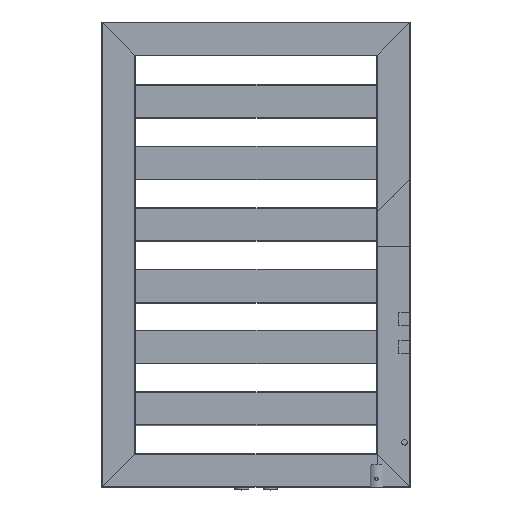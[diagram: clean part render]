
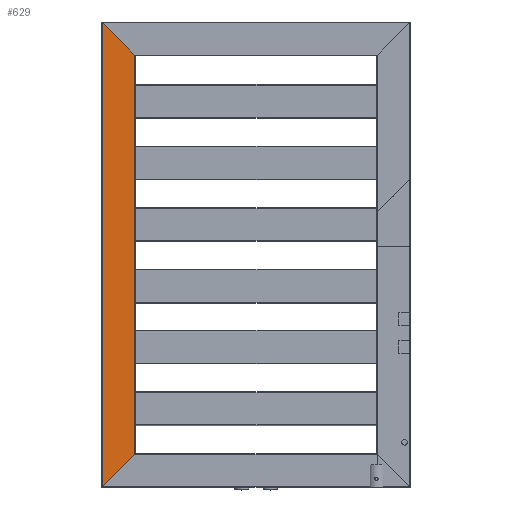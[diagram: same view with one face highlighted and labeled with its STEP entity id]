
A CAD part, top view. The second image highlights one B-rep face of the part: STEP entity #629.
In plain terms, the highlighted planar face has unit normal (0, 0, 1) as drawn and (0, 0, -1) by its records, which use the part's own axes.
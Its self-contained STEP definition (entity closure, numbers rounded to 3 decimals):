
#629 = ADVANCED_FACE( '', ( #1464 ), #1465, .T. );
#1464 = FACE_OUTER_BOUND( '', #2706, .T. );
#1465 = PLANE( '', #2707 );
#2706 = EDGE_LOOP( '', ( #4269, #4270, #4271, #4272 ) );
#2707 = AXIS2_PLACEMENT_3D( '', #4273, #4274, #4275 );
#4269 = ORIENTED_EDGE( '', *, *, #7280, .F. );
#4270 = ORIENTED_EDGE( '', *, *, #7281, .T. );
#4271 = ORIENTED_EDGE( '', *, *, #7282, .T. );
#4272 = ORIENTED_EDGE( '', *, *, #7283, .F. );
#4273 = CARTESIAN_POINT( '', ( 1., 1160., 0. ) );
#4274 = DIRECTION( '', ( 0., 0., -1. ) );
#4275 = DIRECTION( '', ( -1., 0., 0. ) );
#7280 = EDGE_CURVE( '', #8671, #8672, #8673, .T. );
#7281 = EDGE_CURVE( '', #8671, #8674, #8675, .T. );
#7282 = EDGE_CURVE( '', #8674, #8676, #8677, .T. );
#7283 = EDGE_CURVE( '', #8672, #8676, #8678, .T. );
#8671 = VERTEX_POINT( '', #10704 );
#8672 = VERTEX_POINT( '', #10705 );
#8673 = LINE( '', #10706, #10707 );
#8674 = VERTEX_POINT( '', #10708 );
#8675 = LINE( '', #10709, #10710 );
#8676 = VERTEX_POINT( '', #10711 );
#8677 = LINE( '', #10712, #10713 );
#8678 = LINE( '', #10714, #10715 );
#10704 = CARTESIAN_POINT( '', ( 1., 771., 0. ) );
#10705 = CARTESIAN_POINT( '', ( 1., 59., 0. ) );
#10706 = CARTESIAN_POINT( '', ( 1., 1160., 0. ) );
#10707 = VECTOR( '', #13480, 1000. );
#10708 = CARTESIAN_POINT( '', ( 59., 829., 0. ) );
#10709 = CARTESIAN_POINT( '', ( 195.5, 965.5, 0. ) );
#10710 = VECTOR( '', #13481, 1000. );
#10711 = CARTESIAN_POINT( '', ( 59., 1., 0. ) );
#10712 = CARTESIAN_POINT( '', ( 59., 1160., 0. ) );
#10713 = VECTOR( '', #13482, 1000. );
#10714 = CARTESIAN_POINT( '', ( -549.5, 609.5, 0. ) );
#10715 = VECTOR( '', #13483, 1000. );
#13480 = DIRECTION( '', ( 0., -1., 0. ) );
#13481 = DIRECTION( '', ( 0.707, 0.707, 0. ) );
#13482 = DIRECTION( '', ( 0., -1., 0. ) );
#13483 = DIRECTION( '', ( 0.707, -0.707, 0. ) );
